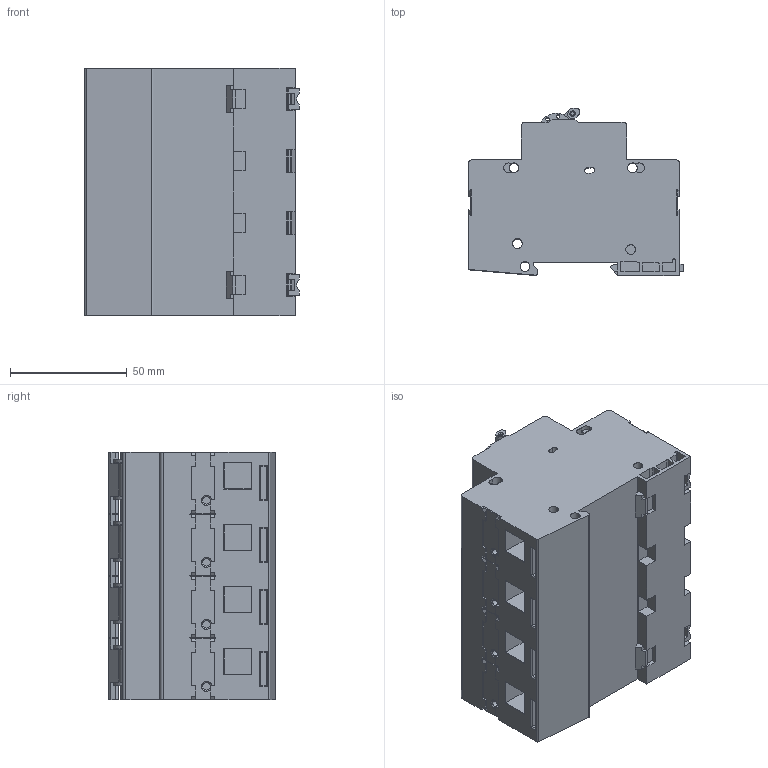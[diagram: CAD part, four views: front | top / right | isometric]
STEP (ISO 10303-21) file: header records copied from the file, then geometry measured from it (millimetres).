
FILE_DESCRIPTION (( 'STEP AP214' ), '1' );
FILE_NAME ('LST_4_zj_02.step', '2013-08-26T09:29:33', ( '' ), ( '' ), 'SwSTEP 2.0', 'SolidWorks 2011', '' );
FILE_SCHEMA (( 'AUTOMOTIVE_DESIGN' ));
Length unit declared in the file: millimetre
Products named in the file (1): LST_4_zj_02
Bounding box: 91.7 x 71.47 x 106 mm (x, y, z)
Volume: 494528.4 mm3; surface area: 68224.9 mm2
Topology: 1 solids, 9 shells, 1342 faces, 3597 edges, 2356 vertices
Faces by surface type: plane 801, cylinder 457, torus 28, bspline 24, cone 16, sphere 16
Entity records: 60369 total; most frequent: CARTESIAN_POINT 11884, ORIENTED_EDGE 7194, DIRECTION 6875, EDGE_CURVE 3597, VERTEX_POINT 2356, LINE 2301, VECTOR 2301, AXIS2_PLACEMENT_3D 2287
